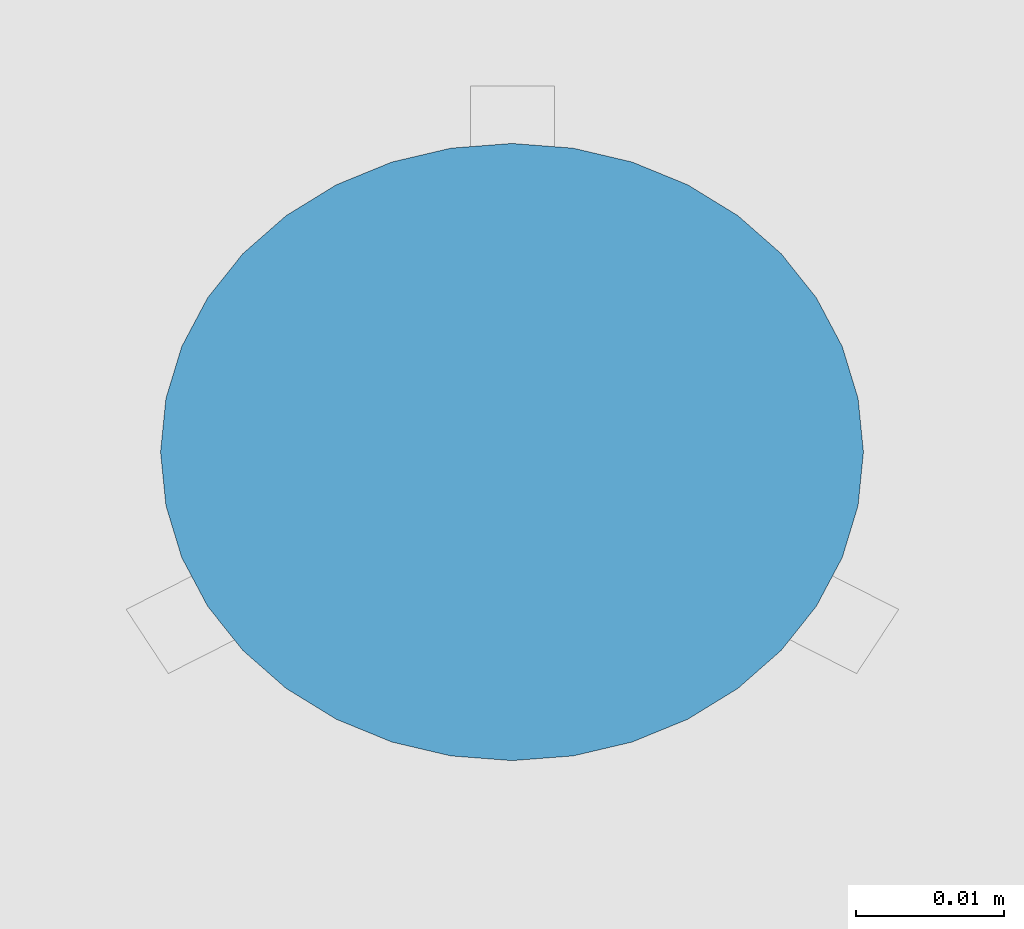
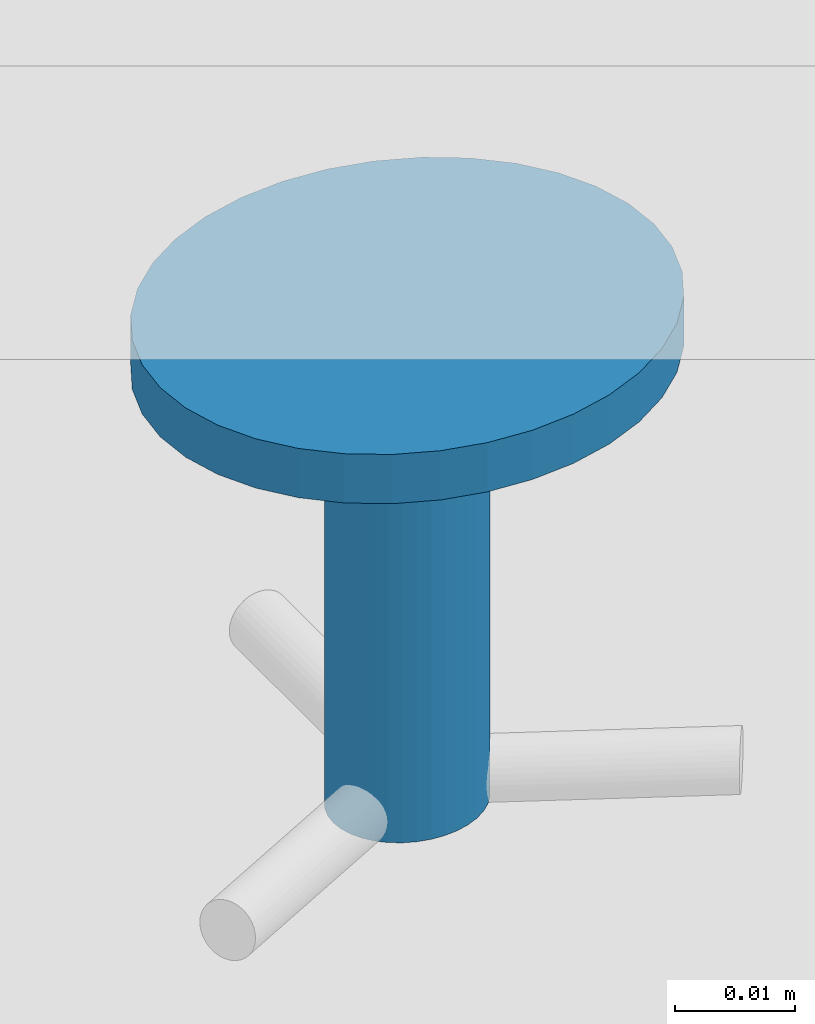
# One storey, part 145 of 788: 1 building element part, 1 element without a shape of its own.
"""IFC2X3 building model written with IfcOpenShell, lengths in millimetres."""

from ifc_helpers import new_model, entity, si_unit, converted_unit, derived_unit, money_unit, direction, frame, origin_with_axes, place, context, subcontext, project, spatial, faceted_brep, source, transform, mapped, material, type_object, element, aggregate, save


model = new_model("IFC2X3")

# Units and contexts
model_context = context("Model", 3, precision=0.01, world=origin_with_axes(), true_north=direction((0.0, 1.0)))
plan_context = context("Plan", 3, precision=0.01, world=origin_with_axes(), true_north=direction((0.0, 1.0)))
body_context = subcontext(model_context, "Body", "Model", "MODEL_VIEW")
ifc_project = project(units=[si_unit("LENGTHUNIT", "METRE", prefix="MILLI"), si_unit("AREAUNIT", "SQUARE_METRE"), si_unit("VOLUMEUNIT", "CUBIC_METRE"), converted_unit("PLANEANGLEUNIT", "DEGREE", entity("IfcPlaneAngleMeasure", 0.0174532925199), si_unit("PLANEANGLEUNIT", "RADIAN"), dimensions=[0, 0, 0, 0, 0, 0, 0]), money_unit("EUR"), converted_unit("TIMEUNIT", "Year", entity("IfcTimeMeasure", 31556926.0), si_unit("TIMEUNIT", "SECOND"), dimensions=[0, 0, 1, 0, 0, 0, 0]), si_unit("MASSUNIT", "GRAM", prefix="KILO"), si_unit("THERMODYNAMICTEMPERATUREUNIT", "DEGREE_CELSIUS"), si_unit("LUMINOUSINTENSITYUNIT", "LUMEN"), si_unit("ENERGYUNIT", "JOULE", prefix="MEGA"), derived_unit("THERMALCONDUCTANCEUNIT", [(si_unit("POWERUNIT", "WATT"), 1), (si_unit("LENGTHUNIT", "METRE"), -1), (si_unit("THERMODYNAMICTEMPERATUREUNIT", "KELVIN"), -1)]), derived_unit("SPECIFICHEATCAPACITYUNIT", [(si_unit("ENERGYUNIT", "JOULE"), 1), (si_unit("MASSUNIT", "GRAM", prefix="KILO"), -1), (si_unit("THERMODYNAMICTEMPERATUREUNIT", "KELVIN"), -1)]), derived_unit("MASSDENSITYUNIT", [(si_unit("MASSUNIT", "GRAM", prefix="KILO"), 1), (si_unit("VOLUMEUNIT", "CUBIC_METRE"), -1)])], contexts=[model_context, plan_context])

# Site, building, storey
site_placement = place(None, origin_with_axes())
site = spatial("IfcSite", under=ifc_project, at=site_placement, Name="Site", CompositionType="ELEMENT")
building_placement = place(site_placement, origin_with_axes())
building = spatial("IfcBuilding", under=site, at=building_placement, Name="Naam gebouw", CompositionType="ELEMENT")
storey_placement = place(building_placement, origin_with_axes())
storey = spatial("IfcBuildingStorey", under=building, at=storey_placement, Name="Begane grond", CompositionType="ELEMENT", Elevation=0.0)

# Proxy, building element part
building_element_proxy_type = type_object("IfcBuildingElementProxyType", Name="plafondhaak", PredefinedType="NOTDEFINED")
proxy_placement = place(storey_placement, frame((9957.50804877, 25144.5522154, 1211.0), z_axis=(0.0, 0.0, 1.0), x_axis=(0.0, 1.0, 0.0)))
proxy = element("IfcBuildingElementProxy", 1, at=proxy_placement, inside=storey, type_object=building_element_proxy_type, Name="garderobehaak")
ifc_material = material(Name="_Dichte arcering")
shared_shape = source(origin_with_axes(), body_context, "Body", "Brep", [
    faceted_brep([(-17.5871200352, 3.81461944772, 50.0), (-17.5871200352, 3.81461944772, 45.0), (-14.2952839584, 5.56266277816, 45.0), (-14.2952839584, 5.56266277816, 50.0), (-21.0954971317, 2.74408618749, 50.0), (-21.0954971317, 2.74408618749, 45.0), (-5.13338153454, 17.9967404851, 45.0), (-6.66838990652, 14.2480494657, 45.0), (-8.75169938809, 10.8598540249, 45.0), (-11.3200096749, 7.93510276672, 45.0), (-24.7138149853, 2.38359060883, 45.0), (-28.3321328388, 2.74408618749, 45.0), (-31.8405099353, 3.81461944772, 45.0), (-35.1323460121, 5.56266277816, 45.0), (-38.1076202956, 7.93510276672, 45.0), (-40.6759305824, 10.8598540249, 45.0), (-42.759240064, 14.2480494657, 45.0), (-44.294248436, 17.9967404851, 45.0), (-45.2343152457, 21.9920250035, 45.0), (-45.550877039, 26.1125083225, 45.0), (-45.2343152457, 30.2329916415, 45.0), (-44.294248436, 34.2282761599, 45.0), (-42.759240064, 37.9769671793, 45.0), (-40.6759305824, 41.3651626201, 45.0), (-38.1076202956, 44.2899138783, 45.0), (-35.1323460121, 46.6623538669, 45.0), (-31.8405099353, 48.4103971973, 45.0), (-28.3321328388, 49.4809304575, 45.0), (-24.7138149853, 49.8414260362, 45.0), (-21.0954971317, 49.4809304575, 45.0), (-17.5871200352, 48.4103971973, 45.0), (-14.2952839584, 46.6623538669, 45.0), (-11.3200096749, 44.2899138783, 45.0), (-8.75169938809, 41.3651626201, 45.0), (-6.66838990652, 37.9769671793, 45.0), (-5.13338153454, 34.2282761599, 45.0), (-4.19331472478, 30.2329916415, 45.0), (-3.87675293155, 26.1125083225, 45.0), (-4.19331472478, 21.9920250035, 45.0), (-24.7138149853, 18.9938330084, 45.0), (-23.6283196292, 19.101981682, 45.0), (-22.5758065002, 19.4231416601, 45.0), (-21.5882556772, 19.9475546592, 45.0), (-20.6956733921, 20.6592866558, 45.0), (-19.9251803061, 21.5367120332, 45.0), (-19.3001874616, 22.5531706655, 45.0), (-18.83968495, 23.6777779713, 45.0), (-18.5576649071, 24.8763633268, 45.0), (-18.4626963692, 26.1125083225, 45.0), (-18.5576649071, 27.3486533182, 45.0), (-18.83968495, 28.5472386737, 45.0), (-19.3001874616, 29.6718459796, 45.0), (-19.9251803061, 30.6883046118, 45.0), (-20.6956733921, 31.5657299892, 45.0), (-21.5882556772, 32.2774619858, 45.0), (-22.5758065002, 32.8018749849, 45.0), (-23.6283196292, 33.123034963, 45.0), (-24.7138149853, 33.2311836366, 45.0), (-25.7993103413, 33.123034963, 45.0), (-26.8518234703, 32.8018749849, 45.0), (-27.8393742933, 32.2774619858, 45.0), (-28.7319565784, 31.5657299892, 45.0), (-29.5024496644, 30.6883046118, 45.0), (-30.1274425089, 29.6718459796, 45.0), (-30.5879450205, 28.5472386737, 45.0), (-30.8699650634, 27.3486533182, 45.0), (-30.9649336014, 26.1125083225, 45.0), (-30.8699650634, 24.8763633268, 45.0), (-30.5879450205, 23.6777779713, 45.0), (-30.1274425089, 22.5531706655, 45.0), (-29.5024496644, 21.5367120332, 45.0), (-28.7319565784, 20.6592866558, 45.0), (-27.8393742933, 19.9475546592, 45.0), (-26.8518234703, 19.4231416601, 45.0), (-25.7993103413, 19.101981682, 45.0), (-11.3200096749, 7.93510276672, 50.0), (-8.75169938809, 10.8598540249, 50.0), (-6.66838990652, 14.2480494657, 50.0), (-5.13338153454, 17.9967404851, 50.0), (-4.19331472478, 21.9920250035, 50.0), (-3.87675293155, 26.1125083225, 50.0), (-4.19331472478, 30.2329916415, 50.0), (-5.13338153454, 34.2282761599, 50.0), (-6.66838990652, 37.9769671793, 50.0), (-8.75169938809, 41.3651626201, 50.0), (-11.3200096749, 44.2899138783, 50.0), (-14.2952839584, 46.6623538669, 50.0), (-17.5871200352, 48.4103971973, 50.0), (-21.0954971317, 49.4809304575, 50.0), (-24.7138149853, 49.8414260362, 50.0), (-28.3321328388, 49.4809304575, 50.0), (-31.8405099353, 48.4103971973, 50.0), (-35.1323460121, 46.6623538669, 50.0), (-38.1076202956, 44.2899138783, 50.0), (-40.6759305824, 41.3651626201, 50.0), (-42.759240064, 37.9769671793, 50.0), (-44.294248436, 34.2282761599, 50.0), (-45.2343152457, 30.2329916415, 50.0), (-45.550877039, 26.1125083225, 50.0), (-45.2343152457, 21.9920250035, 50.0), (-44.294248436, 17.9967404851, 50.0), (-42.759240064, 14.2480494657, 50.0), (-40.6759305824, 10.8598540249, 50.0), (-38.1076202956, 7.93510276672, 50.0), (-35.1323460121, 5.56266277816, 50.0), (-31.8405099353, 3.81461944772, 50.0), (-28.3321328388, 2.74408618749, 50.0), (-24.7138149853, 2.38359060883, 50.0), (-24.7138149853, 18.9938330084, 0.0), (-23.6283196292, 19.101981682, 0.0), (-22.5758065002, 19.4231416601, 0.0), (-21.5882556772, 19.9475546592, 0.0), (-20.6956733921, 20.6592866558, 0.0), (-19.9251803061, 21.5367120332, 0.0), (-19.3001874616, 22.5531706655, 0.0), (-18.83968495, 23.6777779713, 0.0), (-18.5576649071, 24.8763633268, 0.0), (-18.4626963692, 26.1125083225, 0.0), (-18.5576649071, 27.3486533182, 0.0), (-18.83968495, 28.5472386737, 0.0), (-19.3001874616, 29.6718459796, 0.0), (-19.9251803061, 30.6883046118, 0.0), (-20.6956733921, 31.5657299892, 0.0), (-21.5882556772, 32.2774619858, 0.0), (-22.5758065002, 32.8018749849, 0.0), (-23.6283196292, 33.123034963, 0.0), (-24.7138149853, 33.2311836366, 0.0), (-25.7993103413, 33.123034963, 0.0), (-26.8518234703, 32.8018749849, 0.0), (-27.8393742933, 32.2774619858, 0.0), (-28.7319565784, 31.5657299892, 0.0), (-29.5024496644, 30.6883046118, 0.0), (-30.1274425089, 29.6718459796, 0.0), (-30.5879450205, 28.5472386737, 0.0), (-30.8699650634, 27.3486533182, 0.0), (-30.9649336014, 26.1125083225, 0.0), (-30.8699650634, 24.8763633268, 0.0), (-30.5879450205, 23.6777779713, 0.0), (-30.1274425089, 22.5531706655, 0.0), (-29.5024496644, 21.5367120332, 0.0), (-28.7319565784, 20.6592866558, 0.0), (-27.8393742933, 19.9475546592, 0.0), (-26.8518234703, 19.4231416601, 0.0), (-25.7993103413, 19.101981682, 0.0)], [[[0, 1, 2, 3]], [[0, 4, 5, 1]], [[6, 7, 8, 9, 2, 1, 5, 10, 11, 12, 13, 14, 15, 16, 17, 18, 19, 20, 21, 22, 23, 24, 25, 26, 27, 28, 29, 30, 31, 32, 33, 34, 35, 36, 37, 38], [39, 40, 41, 42, 43, 44, 45, 46, 47, 48, 49, 50, 51, 52, 53, 54, 55, 56, 57, 58, 59, 60, 61, 62, 63, 64, 65, 66, 67, 68, 69, 70, 71, 72, 73, 74]], [[3, 2, 9, 75]], [[3, 75, 76, 77, 78, 79, 80, 81, 82, 83, 84, 85, 86, 87, 88, 89, 90, 91, 92, 93, 94, 95, 96, 97, 98, 99, 100, 101, 102, 103, 104, 105, 106, 107, 4, 0]], [[107, 10, 5, 4]], [[77, 7, 6, 78]], [[76, 8, 7, 77]], [[9, 8, 76, 75]], [[106, 11, 10, 107]], [[105, 12, 11, 106]], [[104, 13, 12, 105]], [[103, 14, 13, 104]], [[103, 102, 15, 14]], [[102, 101, 16, 15]], [[100, 17, 16, 101]], [[99, 18, 17, 100]], [[98, 19, 18, 99]], [[97, 20, 19, 98]], [[96, 21, 20, 97]], [[95, 22, 21, 96]], [[94, 23, 22, 95]], [[93, 24, 23, 94]], [[92, 25, 24, 93]], [[91, 26, 25, 92]], [[90, 27, 26, 91]], [[89, 28, 27, 90]], [[88, 29, 28, 89]], [[30, 29, 88, 87]], [[31, 30, 87, 86]], [[32, 31, 86, 85]], [[33, 32, 85, 84]], [[83, 34, 33, 84]], [[82, 35, 34, 83]], [[81, 36, 35, 82]], [[80, 37, 36, 81]], [[79, 38, 37, 80]], [[78, 6, 38, 79]], [[40, 39, 108, 109]], [[41, 40, 109, 110]], [[110, 111, 42, 41]], [[43, 42, 111, 112]], [[112, 113, 44, 43]], [[113, 114, 45, 44]], [[114, 115, 46, 45]], [[47, 46, 115, 116]], [[116, 117, 48, 47]], [[117, 118, 49, 48]], [[118, 119, 50, 49]], [[119, 120, 51, 50]], [[120, 121, 52, 51]], [[53, 52, 121, 122]], [[122, 123, 54, 53]], [[123, 124, 55, 54]], [[124, 125, 56, 55]], [[125, 126, 57, 56]], [[58, 57, 126, 127]], [[59, 58, 127, 128]], [[60, 59, 128, 129]], [[129, 130, 61, 60]], [[130, 131, 62, 61]], [[131, 132, 63, 62]], [[64, 63, 132, 133]], [[65, 64, 133, 134]], [[66, 65, 134, 135]], [[135, 136, 67, 66]], [[68, 67, 136, 137]], [[137, 138, 69, 68]], [[70, 69, 138, 139]], [[71, 70, 139, 140]], [[72, 71, 140, 141]], [[73, 72, 141, 142]], [[74, 73, 142, 143]], [[39, 74, 143, 108]], [[109, 108, 143, 142, 141, 140, 139, 138, 137, 136, 135, 134, 133, 132, 131, 130, 129, 128, 127, 126, 125, 124, 123, 122, 121, 120, 119, 118, 117, 116, 115, 114, 113, 112, 111, 110]]]),
])
building_element_part_placement = place(proxy_placement, origin_with_axes())
building_element_part = element("IfcBuildingElementPart", 2, at=building_element_part_placement, material=ifc_material, Name="_Dichte arcering", context=body_context, shape_type="MappedRepresentation", body=[
    mapped(shared_shape, transform((0.0, 0.0, 0.0))),
])
aggregate(proxy, [building_element_part])

save(model, "model.ifc")
